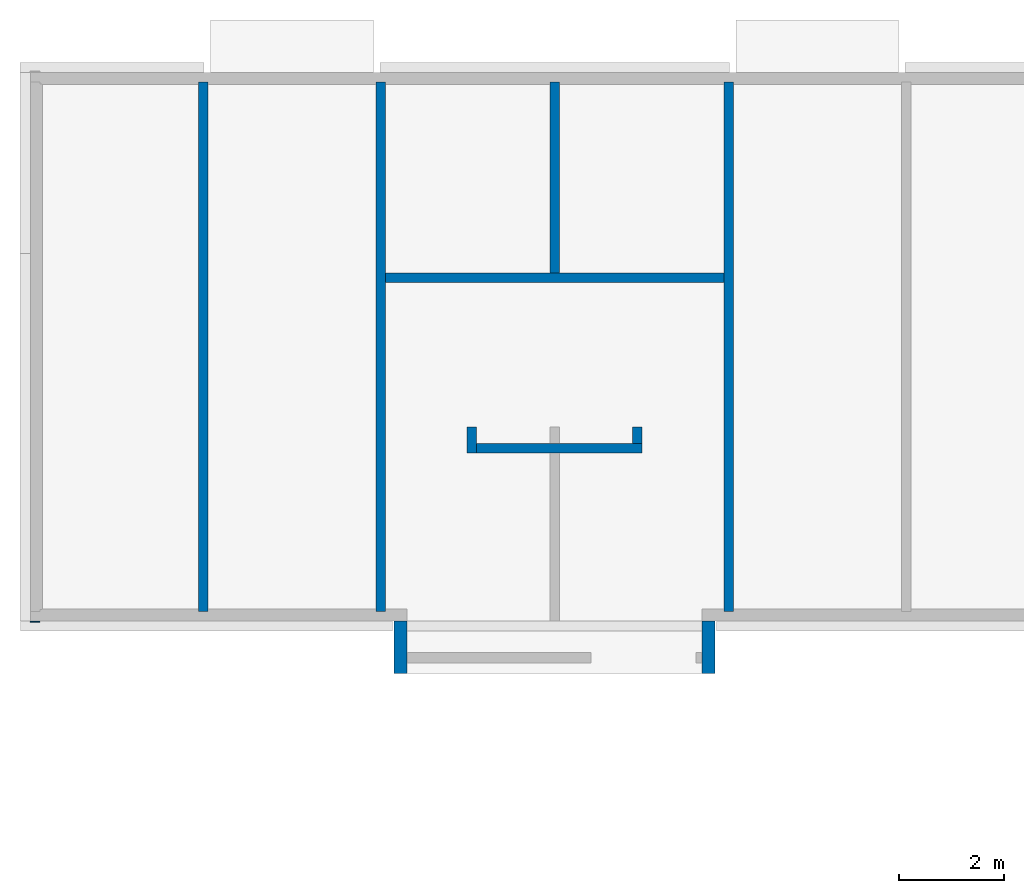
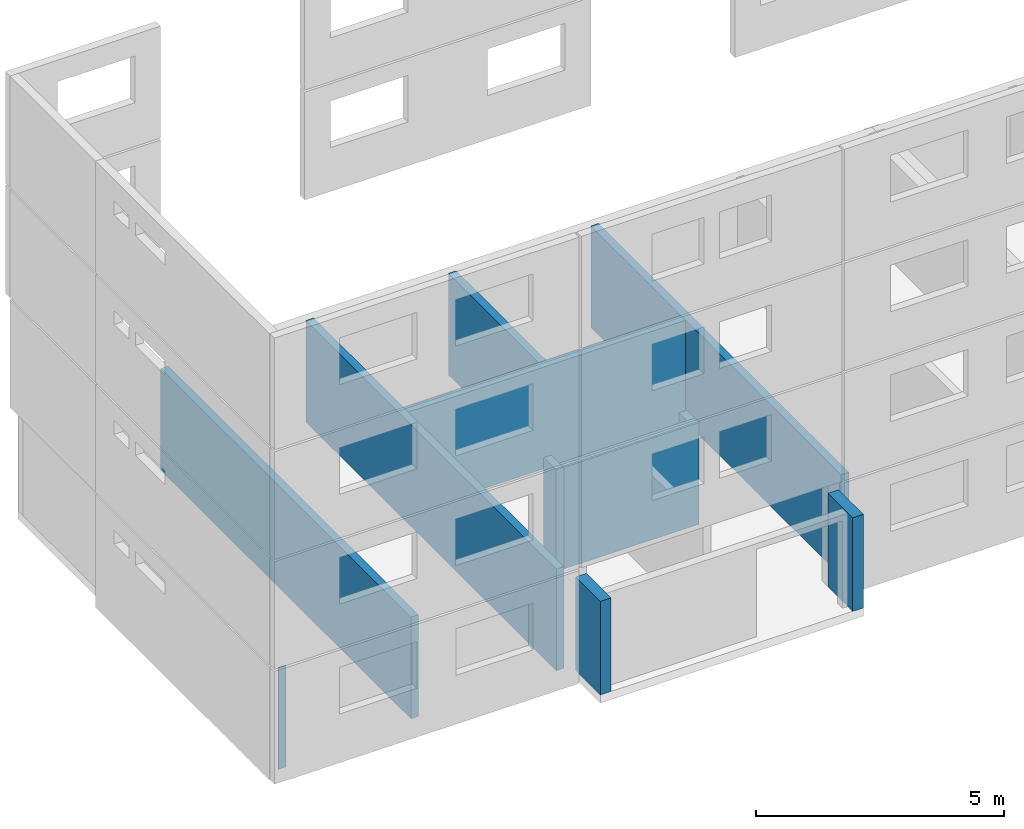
# One storey, part 1 of 15: 11 walls.
"""IFC2X3 building model written with IfcOpenShell, lengths in metres."""

import ifcopenshell
import ifcopenshell.guid

model = None  # the IFC model being written
_history = None  # IfcOwnerHistory: only IFC2X3 demands one
_inside = {}  # id of a spatial element -> (the spatial element, [elements in it])
_under = {}  # id of a project, library or spatial element -> (it, [spatial elements below it])
_declared = {}  # id of a project -> (the project, [libraries it declares])
_typed = {}  # id of a type object -> (the type object, [elements of that type])
_made_of = {}  # id of a material, layer set ... -> (it, [elements and type objects made of it])


def new_model(schema):
    """Start an empty IFC model of exactly this schema.

    Asked for "IFC4X3", IfcOpenShell would pick the latest addendum, in which some entities
    have other attributes; the version numbers below select the first issue.
    IFC2X3 requires an IfcOwnerHistory on every rooted entity: one is made here for all.
    """
    global model, _history
    if schema == "IFC4X3":
        model = ifcopenshell.file(schema_version=(4, 3, 0, 0))
    else:
        model = ifcopenshell.file(schema=schema)
    _inside.clear()
    _under.clear()
    _declared.clear()
    _typed.clear()
    _made_of.clear()
    _history = None
    if model.schema == "IFC2X3":
        org = make("IfcOrganization", Name="unknown")
        user = make(
            "IfcPersonAndOrganization",
            ThePerson=make("IfcPerson", FamilyName="unknown"),
            TheOrganization=org,
        )
        app = make(
            "IfcApplication",
            ApplicationDeveloper=org,
            Version="unknown",
            ApplicationFullName="unknown",
            ApplicationIdentifier="unknown",
        )
        _history = make(
            "IfcOwnerHistory",
            OwningUser=user,
            OwningApplication=app,
            ChangeAction="ADDED",
            CreationDate=0,
        )
    return model


def make(cls, **values):
    """One entity of the class cls with the attributes given. An attribute that is None is left unset."""
    return model.create_entity(
        cls, **{name: value for name, value in values.items() if value is not None}
    )


def rooted(cls, **values):
    """An entity with a GlobalId (a new one), such as an element, a storey or a relation."""
    return make(cls, GlobalId=ifcopenshell.guid.new(), OwnerHistory=_history, **values)


def si_unit(unit_type, name, prefix=None):
    """IfcSIUnit, for example si_unit("LENGTHUNIT", "METRE", prefix="MILLI")."""
    return make("IfcSIUnit", UnitType=unit_type, Prefix=prefix, Name=name)


def assignment(units):
    """IfcUnitAssignment: the units of a project."""
    return None if units is None else make("IfcUnitAssignment", Units=units)


def point(xyz):
    """IfcCartesianPoint."""
    return None if xyz is None else make("IfcCartesianPoint", Coordinates=xyz)


def direction(xyz):
    """IfcDirection."""
    return None if xyz is None else make("IfcDirection", DirectionRatios=xyz)


def frame(location, z_axis=None, x_axis=None):
    """IfcAxis2Placement3D, a coordinate frame: its origin and axes. An axis left out is left unset."""
    return make(
        "IfcAxis2Placement3D",
        Location=point(location),
        Axis=direction(z_axis),
        RefDirection=direction(x_axis),
    )


def frame_2d(location, x_axis=None):
    """IfcAxis2Placement2D, a coordinate frame in the plane: its origin and x axis."""
    return make(
        "IfcAxis2Placement2D", Location=point(location), RefDirection=direction(x_axis)
    )


def origin():
    """The frame at (0, 0, 0) with its axes left unset."""
    return frame((0.0, 0.0, 0.0))


def origin_with_axes():
    """The frame at (0, 0, 0) with the z axis (0, 0, 1) and the x axis (1, 0, 0) written out."""
    return frame((0.0, 0.0, 0.0), z_axis=(0.0, 0.0, 1.0), x_axis=(1.0, 0.0, 0.0))


def place(relative_to, where):
    """IfcLocalPlacement: puts the frame where relative to a parent placement (None: the world)."""
    return make(
        "IfcLocalPlacement", PlacementRelTo=relative_to, RelativePlacement=where
    )


def context(
    kind, dimensions, precision=None, world=None, true_north=None, identifier=None
):
    """IfcGeometricRepresentationContext, for example the 3D "Model" context."""
    return make(
        "IfcGeometricRepresentationContext",
        ContextIdentifier=identifier,
        ContextType=kind,
        CoordinateSpaceDimension=dimensions,
        Precision=precision,
        WorldCoordinateSystem=world,
        TrueNorth=true_north,
    )


def project(units=None, contexts=None):
    """IfcProject with its units and contexts."""
    return rooted(
        "IfcProject",
        Name="project",
        RepresentationContexts=contexts,
        UnitsInContext=assignment(units),
    )


def spatial(cls, under=None, at=None, **own):
    """A site, building, storey or space (cls), placed at a placement, below another one or the project."""
    s = rooted(cls, ObjectPlacement=at, **own)
    if under is not None:
        _under.setdefault(under.id(), (under, []))[1].append(s)
    return s


def profile(cls, at=None, kind="AREA", **sizes):
    """A parametric profile (cls). Its sizes go by their IFC names, for example OverallWidth=200.0."""
    return make(cls, ProfileType=kind, Position=at, **sizes)


def rectangle(**sizes):
    """IfcRectangleProfileDef."""
    return profile("IfcRectangleProfileDef", **sizes)


def extrude(swept, where, along, depth):
    """IfcExtrudedAreaSolid: the profile swept, set in the frame where, extruded along a direction by depth."""
    return make(
        "IfcExtrudedAreaSolid",
        SweptArea=swept,
        Position=where,
        ExtrudedDirection=direction(along),
        Depth=depth,
    )


def shape(context_of_items, identifier, shape_type, items):
    """IfcShapeRepresentation: the items that make up one representation, for example the "Body"."""
    return make(
        "IfcShapeRepresentation",
        ContextOfItems=context_of_items,
        RepresentationIdentifier=identifier,
        RepresentationType=shape_type,
        Items=items,
    )


def made_of(thing, what):
    """Note that an element or type object is made of a material, layer set ...; save() writes the relation."""
    if what is not None:
        _made_of.setdefault(what.id(), (what, []))[1].append(thing)
    return thing


def element(
    cls,
    number,
    at=None,
    inside=None,
    cuts=None,
    type_object=None,
    material=None,
    context=None,
    identifier="Body",
    shape_type=None,
    held_by="IfcProductDefinitionShape",
    body=None,
    shapes=None,
    **own,
):
    """One element of the class cls, such as IfcWall. Its Tag is "e" and its number.

    at: its placement. inside: the storey or other place that contains it. cuts: it is an
    opening in that element (IfcRelVoidsElement). A single representation is given by context,
    identifier, shape_type and body (its items); several are given by shapes. held_by: the class
    of the entity that holds the representations. save() writes the other relations.
    """
    e = rooted(cls, Tag="e%d" % number, ObjectPlacement=at, **own)
    if body is not None:
        shapes = [shape(context, identifier, shape_type, body)]
    if shapes is not None:
        e.Representation = make(held_by, Representations=shapes)
    if inside is not None:
        _inside.setdefault(inside.id(), (inside, []))[1].append(e)
    if cuts is not None:
        rooted(
            "IfcRelVoidsElement", RelatingBuildingElement=cuts, RelatedOpeningElement=e
        )
    if type_object is not None:
        _typed.setdefault(type_object.id(), (type_object, []))[1].append(e)
    return made_of(e, material)


def aggregate(whole, parts):
    """IfcRelAggregates: a whole, such as a stair, and the parts it consists of."""
    return rooted("IfcRelAggregates", RelatingObject=whole, RelatedObjects=parts)


def save(model, path):
    """Write the relations noted so far, then the file.

    IfcRelAggregates (storeys below a building ...), IfcRelContainedInSpatialStructure (elements
    in a storey), IfcRelDefinesByType, IfcRelAssociatesMaterial and IfcRelDeclares: one each for
    every whole, place, type object, material and project.
    """
    for whole, parts in _under.values():
        aggregate(whole, parts)
    for where, things in _inside.values():
        rooted(
            "IfcRelContainedInSpatialStructure",
            RelatedElements=things,
            RelatingStructure=where,
        )
    for kind, things in _typed.values():
        rooted("IfcRelDefinesByType", RelatedObjects=things, RelatingType=kind)
    for what, things in _made_of.values():
        rooted("IfcRelAssociatesMaterial", RelatedObjects=things, RelatingMaterial=what)
    for by, libraries in _declared.values():
        rooted("IfcRelDeclares", RelatingContext=by, RelatedDefinitions=libraries)
    model.write(path)


model = new_model("IFC2X3")

# Units and contexts
model_context = context("Model", 3, precision=1e-06, world=origin())
ifc_project = project(units=[si_unit("LENGTHUNIT", "METRE"), si_unit("PLANEANGLEUNIT", "RADIAN")], contexts=[model_context])

# Site, building, storey
site = spatial("IfcSite", under=ifc_project, CompositionType="ELEMENT")
building = spatial("IfcBuilding", under=site, CompositionType="ELEMENT")
storey = spatial("IfcBuildingStorey", under=building, Name="rdc", CompositionType="ELEMENT", Elevation=0.0)

# Walls
placement = place(None, origin())
wall_1_placement = place(placement, frame((13.20999947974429, 6.650077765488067, 0.0), z_axis=(0.0, 0.0, 1.0), x_axis=(-1.0, 0.0, 0.0)))
element("IfcWall", 1, at=wall_1_placement, inside=storey, context=model_context, shape_type="SweptSolid", body=[
    extrude(rectangle(XDim=6.449999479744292, YDim=0.18, at=frame_2d((3.224999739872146, 0.09), x_axis=(1.0, 0.0)), kind="CURVE"), origin_with_axes(), (0.0, 0.0, 1.0), 2.5),
])
wall_2_placement = place(placement, frame((8.499999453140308, 3.220077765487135, 0.0), z_axis=(0.0, 0.0, 1.0), x_axis=(0.0, 1.0, 0.0)))
element("IfcWall", 2, at=wall_2_placement, inside=storey, context=model_context, shape_type="SweptSolid", body=[
    extrude(rectangle(XDim=0.5, YDim=0.18, at=frame_2d((0.25, 0.09), x_axis=(1.0, 0.0)), kind="CURVE"), origin_with_axes(), (0.0, 0.0, 1.0), 2.5),
])
wall_3_placement = place(placement, frame((3.38, 0.200077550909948, 0.0), z_axis=(0.0, 0.0, 1.0), x_axis=(0.0, 1.0, 0.0)))
element("IfcWall", 3, at=wall_3_placement, inside=storey, context=model_context, shape_type="SweptSolid", body=[
    extrude(rectangle(XDim=10.090000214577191, YDim=0.18, at=frame_2d((5.045000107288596, 0.09), x_axis=(1.0, 0.0)), kind="CURVE"), origin_with_axes(), (0.0, 0.0, 1.0), 2.5),
])
wall_4_placement = place(placement, frame((-6e-15, 0.020077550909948, 0.0), z_axis=(0.0, 0.0, 1.0), x_axis=(1.0, 0.0, 0.0)))
element("IfcWall", 4, at=wall_4_placement, inside=storey, context=model_context, shape_type="SweptSolid", body=[
    extrude(rectangle(XDim=0.18, YDim=0.020077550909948, at=frame_2d((0.09, 0.010038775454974), x_axis=(1.0, 0.0)), kind="CURVE"), frame((0.0, -0.020077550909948, 0.0), z_axis=(0.0, 0.0, 1.0), x_axis=(1.0, 0.0, 0.0)), (0.0, 0.0, 1.0), 2.5),
])
for number, where, z_axis, x_axis in (
    (5, (13.38999993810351, 0.200077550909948, 0.0), (0.0, 0.0, 1.0), (0.0, 1.0, 0.0)),
    (6, (6.759999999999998, 0.200077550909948, 0.0), (0.0, 0.0, 1.0), (0.0, 1.0, 0.0)),
):
    element("IfcWall", number, at=place(placement, frame(where, z_axis=z_axis, x_axis=x_axis)), inside=storey, context=model_context, shape_type="SweptSolid", body=[
        extrude(rectangle(XDim=10.090000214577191, YDim=0.18, at=frame_2d((5.045000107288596, 0.09), x_axis=(1.0, 0.0)), kind="CURVE"), origin_with_axes(), (0.0, 0.0, 1.0), 2.5),
    ])
wall_5_placement = place(placement, frame((11.46999945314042, 3.720077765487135, 0.0), z_axis=(0.0, 0.0, 1.0), x_axis=(0.0, -1.0, 0.0)))
element("IfcWall", 7, at=wall_5_placement, inside=storey, context=model_context, shape_type="SweptSolid", body=[
    extrude(rectangle(XDim=0.32, YDim=0.18, at=frame_2d((0.16, 0.09), x_axis=(1.0, 0.0)), kind="CURVE"), origin_with_axes(), (0.0, 0.0, 1.0), 2.5),
])
wall_6_placement = place(placement, frame((11.64999945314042, 3.400077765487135, 0.0), z_axis=(0.0, 0.0, 1.0), x_axis=(-1.0, 0.0, 0.0)))
element("IfcWall", 8, at=wall_6_placement, inside=storey, context=model_context, shape_type="SweptSolid", body=[
    extrude(rectangle(XDim=3.150000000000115, YDim=0.18, at=frame_2d((1.575000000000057, 0.09), x_axis=(1.0, 0.0)), kind="CURVE"), origin_with_axes(), (0.0, 0.0, 1.0), 2.5),
])
wall_7_placement = place(placement, frame((10.075000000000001, 6.650077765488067, 0.0), z_axis=(0.0, 0.0, 1.0), x_axis=(0.0, 1.0, 0.0)))
element("IfcWall", 9, at=wall_7_placement, inside=storey, context=model_context, shape_type="SweptSolid", body=[
    extrude(rectangle(XDim=3.639999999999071, YDim=0.18, at=frame_2d((1.819999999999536, 0.09), x_axis=(1.0, 0.0)), kind="CURVE"), origin_with_axes(), (0.0, 0.0, 1.0), 2.5),
])
wall_8_placement = place(placement, frame((12.795000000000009, 0.02016279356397, 0.0), z_axis=(0.0, 0.0, 1.0), x_axis=(0.0, -1.0, 0.0)))
element("IfcWall", 10, at=wall_8_placement, inside=storey, context=model_context, shape_type="SweptSolid", body=[
    extrude(rectangle(XDim=0.999999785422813, YDim=0.25, at=frame_2d((0.499999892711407, 0.125), x_axis=(1.0, 0.0)), kind="CURVE"), origin_with_axes(), (0.0, 0.0, 1.0), 2.300000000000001),
])
wall_9_placement = place(placement, frame((6.925, 0.020077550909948, 0.0), z_axis=(0.0, 0.0, 1.0), x_axis=(0.0, -1.0, 0.0)))
element("IfcWall", 11, at=wall_9_placement, inside=storey, context=model_context, shape_type="SweptSolid", body=[
    extrude(rectangle(XDim=0.999999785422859, YDim=0.25, at=frame_2d((0.499999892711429, 0.125), x_axis=(1.0, 0.0)), kind="CURVE"), origin_with_axes(), (0.0, 0.0, 1.0), 2.300000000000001),
])

save(model, "model.ifc")
